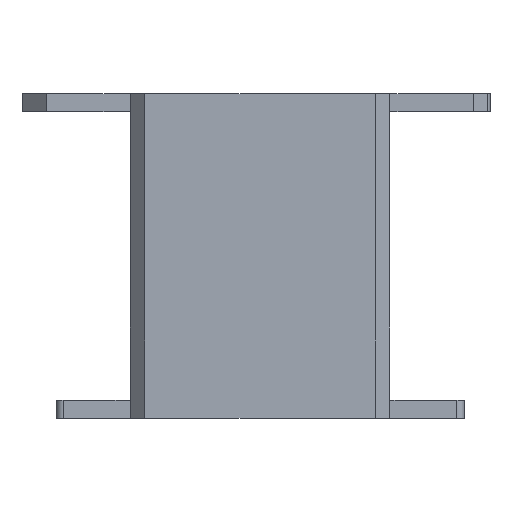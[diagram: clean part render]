
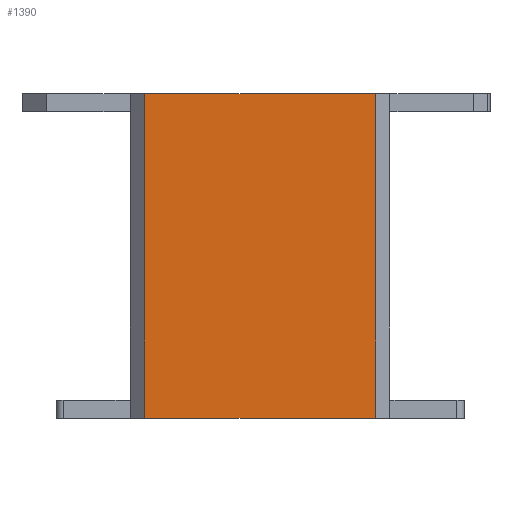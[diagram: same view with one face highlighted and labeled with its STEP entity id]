
A CAD part, top view. The second image highlights one B-rep face of the part: STEP entity #1390.
In plain terms, the highlighted planar face has unit normal (0, 0, 1).
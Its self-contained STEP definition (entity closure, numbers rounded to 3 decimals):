
#86=PLANE('',#1532);
#150=FACE_OUTER_BOUND('',#242,.T.);
#242=EDGE_LOOP('',(#1163,#1164,#1165,#1166));
#300=LINE('',#2029,#422);
#330=LINE('',#2148,#452);
#366=LINE('',#2282,#488);
#368=LINE('',#2285,#490);
#422=VECTOR('',#1598,10.);
#452=VECTOR('',#1720,10.);
#488=VECTOR('',#1868,10.);
#490=VECTOR('',#1872,10.);
#624=VERTEX_POINT('',#2026);
#625=VERTEX_POINT('',#2028);
#667=VERTEX_POINT('',#2145);
#668=VERTEX_POINT('',#2147);
#749=EDGE_CURVE('',#625,#624,#300,.T.);
#808=EDGE_CURVE('',#667,#668,#330,.T.);
#876=EDGE_CURVE('',#668,#624,#366,.T.);
#878=EDGE_CURVE('',#625,#667,#368,.T.);
#1163=ORIENTED_EDGE('',*,*,#876,.F.);
#1164=ORIENTED_EDGE('',*,*,#808,.F.);
#1165=ORIENTED_EDGE('',*,*,#878,.F.);
#1166=ORIENTED_EDGE('',*,*,#749,.T.);
#1390=ADVANCED_FACE('',(#150),#86,.T.);
#1532=AXIS2_PLACEMENT_3D('',#2284,#1870,#1871);
#1598=DIRECTION('',(1.,0.,0.));
#1720=DIRECTION('',(1.,0.,0.));
#1868=DIRECTION('',(0.,-1.,0.));
#1870=DIRECTION('center_axis',(0.,0.,1.));
#1871=DIRECTION('ref_axis',(1.,0.,0.));
#1872=DIRECTION('',(0.,1.,0.));
#2026=CARTESIAN_POINT('',(-7.,-22.5,13.4));
#2028=CARTESIAN_POINT('',(-39.,-22.5,13.4));
#2029=CARTESIAN_POINT('',(-41.,-22.5,13.4));
#2145=CARTESIAN_POINT('',(-39.,22.5,13.4));
#2147=CARTESIAN_POINT('',(-7.,22.5,13.4));
#2148=CARTESIAN_POINT('',(-41.,22.5,13.4));
#2282=CARTESIAN_POINT('',(-7.,-21.875,13.4));
#2284=CARTESIAN_POINT('Origin',(-23.,-21.25,13.4));
#2285=CARTESIAN_POINT('',(-39.,-20.625,13.4));
